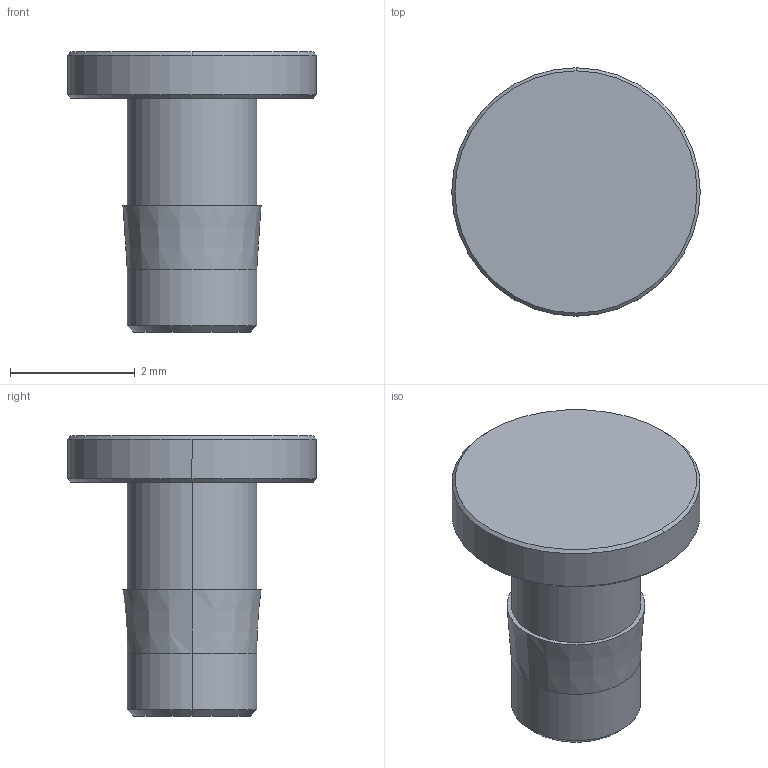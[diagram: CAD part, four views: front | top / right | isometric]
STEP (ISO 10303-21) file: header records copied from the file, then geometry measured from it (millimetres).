
FILE_DESCRIPTION (( 'STEP AP214' ), '1' );
FILE_NAME ('IPP2SS.STEP', '2021-07-20T11:22:12', ( '' ), ( '' ), 'SwSTEP 2.0', 'SolidWorks 2021', '' );
FILE_SCHEMA (( 'AUTOMOTIVE_DESIGN' ));
Length unit declared in the file: millimetre
Products named in the file (1): IPP2SS
Bounding box: 3.99 x 3.99 x 4.5 mm (x, y, z)
Volume: 19.7 mm3; surface area: 64.7 mm2
Topology: 1 solids, 1 shells, 24 faces, 50 edges, 29 vertices
Faces by surface type: cone 12, cylinder 8, plane 4
Entity records: 662 total; most frequent: DIRECTION 126, CARTESIAN_POINT 102, ORIENTED_EDGE 96, AXIS2_PLACEMENT_3D 53, EDGE_CURVE 48, VERTEX_POINT 29, CIRCLE 28, EDGE_LOOP 27
